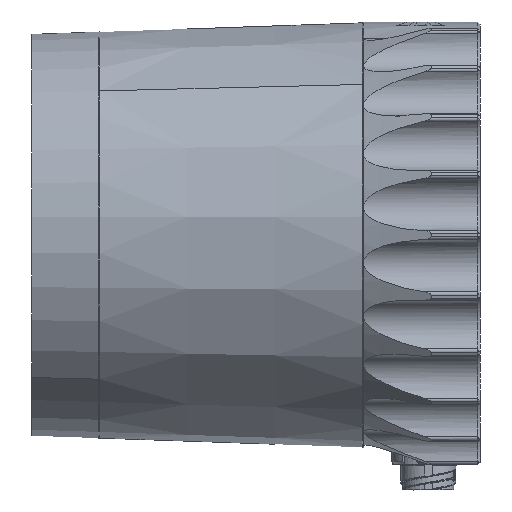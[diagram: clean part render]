
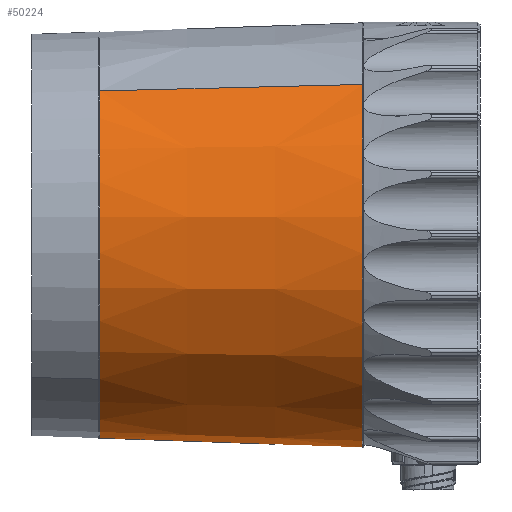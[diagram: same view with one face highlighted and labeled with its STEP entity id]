
A CAD part, left-side view. The second image highlights one B-rep face of the part: STEP entity #50224.
In plain terms, the highlighted conical face has half-angle 2 degrees and reference radius 37.078 mm.
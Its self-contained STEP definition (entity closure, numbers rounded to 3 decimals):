
#1760 = VECTOR ( 'NONE', #73423, 1000. ) ;
#2738 = AXIS2_PLACEMENT_3D ( 'NONE', #28765, #67003, #14618 ) ;
#10584 = EDGE_CURVE ( 'NONE', #42242, #45878, #65620, .T. ) ;
#14054 = AXIS2_PLACEMENT_3D ( 'NONE', #41000, #72997, #48008 ) ;
#14618 = DIRECTION ( 'NONE',  ( -0.707, 0., 0.707 ) ) ;
#18575 = CIRCLE ( 'NONE', #2738, 38.991 ) ;
#22779 = EDGE_CURVE ( 'NONE', #53750, #45878, #18575, .T. ) ;
#23163 = CARTESIAN_POINT ( 'NONE',  ( 27.571, 21.565, -27.571 ) ) ;
#24566 = DIRECTION ( 'NONE',  ( -0.707, 0., 0.707 ) ) ;
#27756 = VECTOR ( 'NONE', #58539, 1000. ) ;
#28765 = CARTESIAN_POINT ( 'NONE',  ( 0., 21.565, 0. ) ) ;
#34978 = VERTEX_POINT ( 'NONE', #37429 ) ;
#37429 = CARTESIAN_POINT ( 'NONE',  ( -26.383, 69.66, 26.383 ) ) ;
#38663 = CARTESIAN_POINT ( 'NONE',  ( -27.571, 21.565, 27.571 ) ) ;
#39058 = CARTESIAN_POINT ( 'NONE',  ( 26.218, 76.35, -26.218 ) ) ;
#41000 = CARTESIAN_POINT ( 'NONE',  ( 0., 69.66, 0. ) ) ;
#42242 = VERTEX_POINT ( 'NONE', #58761 ) ;
#43004 = ORIENTED_EDGE ( 'NONE', *, *, #10584, .T. ) ;
#45878 = VERTEX_POINT ( 'NONE', #23163 ) ;
#46816 = ORIENTED_EDGE ( 'NONE', *, *, #66275, .F. ) ;
#48008 = DIRECTION ( 'NONE',  ( 0.707, 0., -0.707 ) ) ;
#49274 = LINE ( 'NONE', #74642, #1760 ) ;
#50224 = ADVANCED_FACE ( 'NONE', ( #66249 ), #64779, .T. ) ;
#51482 = AXIS2_PLACEMENT_3D ( 'NONE', #59162, #56204, #24566 ) ;
#53750 = VERTEX_POINT ( 'NONE', #38663 ) ;
#55376 = EDGE_CURVE ( 'NONE', #42242, #34978, #65943, .T. ) ;
#56204 = DIRECTION ( 'NONE',  ( 0., -1., 0. ) ) ;
#58539 = DIRECTION ( 'NONE',  ( 0.025, -0.999, -0.025 ) ) ;
#58694 = ORIENTED_EDGE ( 'NONE', *, *, #22779, .F. ) ;
#58761 = CARTESIAN_POINT ( 'NONE',  ( 26.383, 69.66, -26.383 ) ) ;
#59162 = CARTESIAN_POINT ( 'NONE',  ( 0., 76.35, 0. ) ) ;
#64779 = CONICAL_SURFACE ( 'NONE', #51482, 37.078, 0.035 ) ;
#65620 = LINE ( 'NONE', #39058, #27756 ) ;
#65943 = CIRCLE ( 'NONE', #14054, 37.312 ) ;
#66249 = FACE_OUTER_BOUND ( 'NONE', #79361, .T. ) ;
#66275 = EDGE_CURVE ( 'NONE', #34978, #53750, #49274, .T. ) ;
#67003 = DIRECTION ( 'NONE',  ( 0., -1., 0. ) ) ;
#72997 = DIRECTION ( 'NONE',  ( 0., 1., 0. ) ) ;
#73096 = ORIENTED_EDGE ( 'NONE', *, *, #55376, .F. ) ;
#73423 = DIRECTION ( 'NONE',  ( -0.025, -0.999, 0.025 ) ) ;
#74642 = CARTESIAN_POINT ( 'NONE',  ( -26.218, 76.35, 26.218 ) ) ;
#79361 = EDGE_LOOP ( 'NONE', ( #73096, #43004, #58694, #46816 ) ) ;
